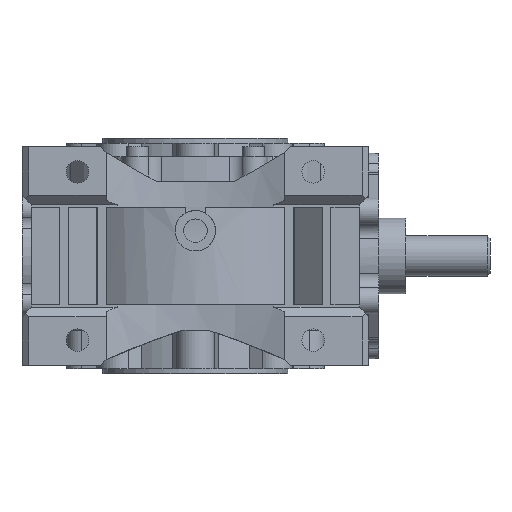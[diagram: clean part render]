
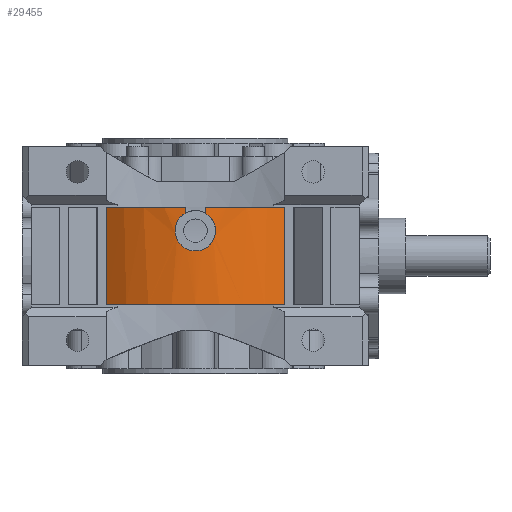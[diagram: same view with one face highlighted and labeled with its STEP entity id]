
A CAD part, front view. The second image highlights one B-rep face of the part: STEP entity #29455.
In plain terms, the highlighted cylindrical face has radius 86 mm (diameter 172 mm), a partial arc.
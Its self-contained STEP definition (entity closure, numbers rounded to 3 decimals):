
#453=B_SPLINE_CURVE_WITH_KNOTS('',3,(#43322,#43323,#43324,#43325,#43326,
#43327,#43328,#43329,#43330,#43331,#43332,#43333,#43334,#43335,#43336,#43337),
 .UNSPECIFIED.,.F.,.F.,(4,1,1,1,1,1,1,1,1,1,1,1,1,4),(0.044,
0.052,0.056,0.059,0.063,
0.067,0.071,0.075,0.083,
0.087,0.091,0.095,0.099,
0.106),.UNSPECIFIED.);
#555=CYLINDRICAL_SURFACE('',#31278,86.);
#1590=LINE('',#42315,#3373);
#1592=LINE('',#42318,#3375);
#1927=LINE('',#43320,#3710);
#1928=LINE('',#43339,#3711);
#3373=VECTOR('',#34582,1000.);
#3375=VECTOR('',#34586,1000.);
#3710=VECTOR('',#35529,1000.);
#3711=VECTOR('',#35530,1000.);
#7109=ORIENTED_EDGE('',*,*,#12620,.T.);
#7110=ORIENTED_EDGE('',*,*,#12621,.T.);
#7111=ORIENTED_EDGE('',*,*,#12622,.T.);
#7112=ORIENTED_EDGE('',*,*,#12111,.T.);
#7113=ORIENTED_EDGE('',*,*,#12124,.T.);
#7114=ORIENTED_EDGE('',*,*,#12091,.F.);
#7115=ORIENTED_EDGE('',*,*,#12122,.T.);
#7116=ORIENTED_EDGE('',*,*,#11343,.T.);
#11343=EDGE_CURVE('',#14500,#14498,#16434,.T.);
#12091=EDGE_CURVE('',#15056,#15057,#16611,.T.);
#12111=EDGE_CURVE('',#15070,#15073,#16619,.T.);
#12122=EDGE_CURVE('',#15056,#14500,#1590,.T.);
#12124=EDGE_CURVE('',#15073,#15057,#1592,.F.);
#12620=EDGE_CURVE('',#14498,#15402,#1927,.F.);
#12621=EDGE_CURVE('',#15402,#15403,#453,.T.);
#12622=EDGE_CURVE('',#15403,#15070,#1928,.T.);
#14498=VERTEX_POINT('',#40447);
#14500=VERTEX_POINT('',#40450);
#15056=VERTEX_POINT('',#42253);
#15057=VERTEX_POINT('',#42255);
#15070=VERTEX_POINT('',#42288);
#15073=VERTEX_POINT('',#42294);
#15402=VERTEX_POINT('',#43321);
#15403=VERTEX_POINT('',#43338);
#16434=CIRCLE('',#30553,86.);
#16611=CIRCLE('',#30952,86.);
#16619=CIRCLE('',#30964,86.);
#17748=EDGE_LOOP('',(#7109,#7110,#7111,#7112,#7113,#7114,#7115,#7116));
#19217=FACE_BOUND('',#17748,.T.);
#29455=ADVANCED_FACE('',(#19217),#555,.T.);
#30553=AXIS2_PLACEMENT_3D('',#40449,#33304,#33305);
#30952=AXIS2_PLACEMENT_3D('',#42254,#34522,#34523);
#30964=AXIS2_PLACEMENT_3D('',#42295,#34558,#34559);
#31278=AXIS2_PLACEMENT_3D('',#43319,#35527,#35528);
#33304=DIRECTION('',(0.,0.,1.));
#33305=DIRECTION('',(1.,0.,0.));
#34522=DIRECTION('',(0.,0.,1.));
#34523=DIRECTION('',(1.,0.,0.));
#34558=DIRECTION('',(0.,0.,1.));
#34559=DIRECTION('',(1.,0.,0.));
#34582=DIRECTION('',(0.,0.,-1.));
#34586=DIRECTION('',(0.,0.,-1.));
#35527=DIRECTION('',(0.,0.,-1.));
#35528=DIRECTION('',(-1.,0.,0.));
#35529=DIRECTION('',(0.,0.,-1.));
#35530=DIRECTION('',(0.,0.,-1.));
#40447=CARTESIAN_POINT('',(-6.,-85.79,-29.));
#40449=CARTESIAN_POINT('',(0.,0.,-29.));
#40450=CARTESIAN_POINT('',(-53.,-67.727,-29.));
#42253=CARTESIAN_POINT('',(-53.,-67.727,29.));
#42254=CARTESIAN_POINT('',(0.,0.,29.));
#42255=CARTESIAN_POINT('',(53.,-67.727,29.));
#42288=CARTESIAN_POINT('',(6.,-85.79,-29.));
#42294=CARTESIAN_POINT('',(53.,-67.727,-29.));
#42295=CARTESIAN_POINT('',(0.,0.,-29.));
#42315=CARTESIAN_POINT('',(-53.,-67.727,29.));
#42318=CARTESIAN_POINT('',(53.,-67.727,29.));
#43319=CARTESIAN_POINT('',(0.,0.,29.));
#43320=CARTESIAN_POINT('',(-6.,-85.79,29.));
#43321=CARTESIAN_POINT('',(-6.,-85.79,-25.392));
#43322=CARTESIAN_POINT('',(-6.,-85.79,-25.392));
#43323=CARTESIAN_POINT('',(-8.276,-85.631,-24.078));
#43324=CARTESIAN_POINT('',(-10.981,-85.304,-20.981));
#43325=CARTESIAN_POINT('',(-12.19,-85.131,-15.806));
#43326=CARTESIAN_POINT('',(-11.801,-85.188,-11.84));
#43327=CARTESIAN_POINT('',(-10.159,-85.407,-8.216));
#43328=CARTESIAN_POINT('',(-7.442,-85.697,-5.314));
#43329=CARTESIAN_POINT('',(-3.945,-85.937,-3.437));
#43330=CARTESIAN_POINT('',(1.337,-86.065,-2.558));
#43331=CARTESIAN_POINT('',(6.541,-85.796,-4.343));
#43332=CARTESIAN_POINT('',(10.159,-85.407,-8.217));
#43333=CARTESIAN_POINT('',(11.8,-85.188,-11.839));
#43334=CARTESIAN_POINT('',(12.19,-85.131,-15.804));
#43335=CARTESIAN_POINT('',(10.984,-85.304,-20.979));
#43336=CARTESIAN_POINT('',(8.266,-85.632,-24.084));
#43337=CARTESIAN_POINT('',(6.,-85.79,-25.392));
#43338=CARTESIAN_POINT('',(6.,-85.79,-25.392));
#43339=CARTESIAN_POINT('',(6.,-85.79,29.));
